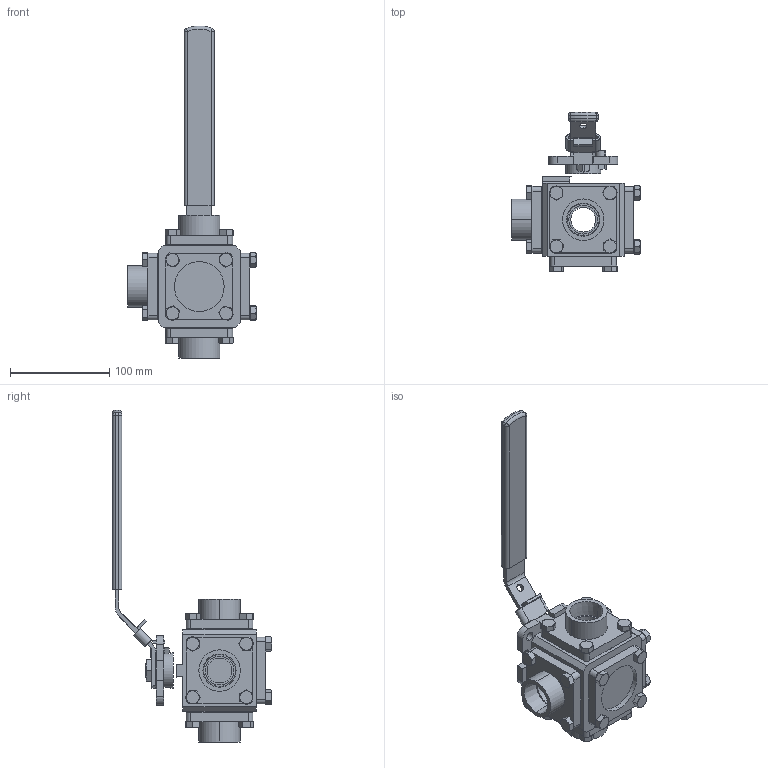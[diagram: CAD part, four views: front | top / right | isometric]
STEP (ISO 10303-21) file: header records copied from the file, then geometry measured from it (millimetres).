
FILE_DESCRIPTION (( 'STEP AP214' ), '1' );
FILE_NAME ('33-TH-0100-XXX.step', '2019-09-30T20:19:25', ( '' ), ( '' ), 'SwSTEP 2.0', 'SolidWorks 2019', '' );
FILE_SCHEMA (( 'AUTOMOTIVE_DESIGN' ));
Length unit declared in the file: inch
Products named in the file (2): 33-TH-0100-XXX
Bounding box: 129.38 x 160.34 x 334.68 mm (x, y, z)
Surface area: 129993 mm2 (no closed solid volume)
Topology: 0 solids, 40 shells, 535 faces, 1445 edges, 966 vertices
Faces by surface type: plane 292, cone 132, cylinder 103, sphere 4, torus 4
Entity records: 24776 total; most frequent: CARTESIAN_POINT 4563, DIRECTION 2736, ORIENTED_EDGE 2550, EDGE_CURVE 1441, AXIS2_PLACEMENT_3D 1029, VERTEX_POINT 966, VECTOR 678, LINE 678
